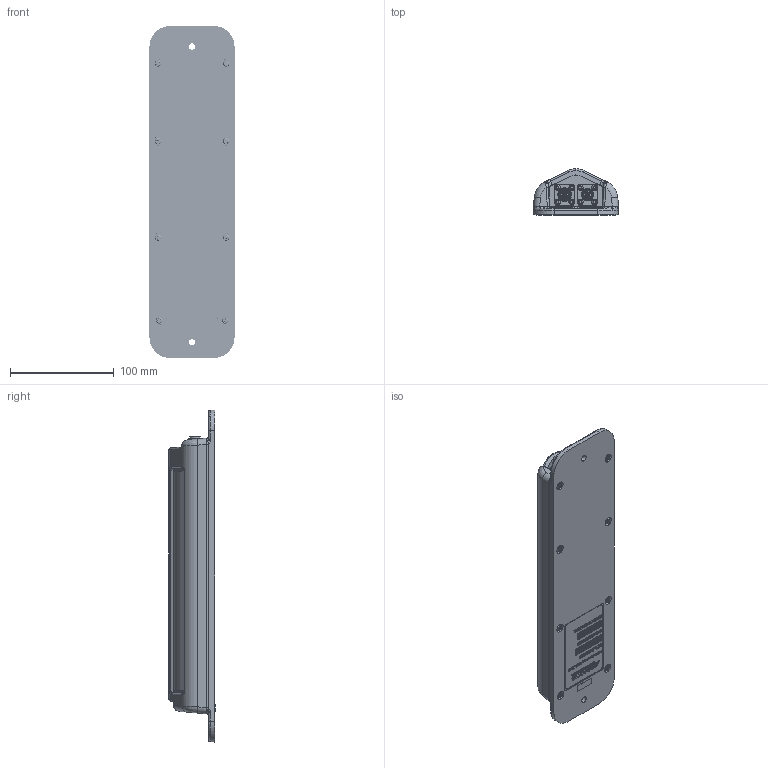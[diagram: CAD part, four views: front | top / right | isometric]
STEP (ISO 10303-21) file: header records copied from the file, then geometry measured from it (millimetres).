
FILE_DESCRIPTION(/* description */ (''),/* implementation_level */ '2;1');
FILE_NAME(/* name */ 'S:\Projects\LASER-RECEIVER-CAN, AX064000, Proj_20027\MECHANICAL\Rev 2.1\STEP FILE\FG-AX064000 STEP_P2.stp',/* time_stamp */ '2023-02-07T13:31:57-05:00',/* author */ ('elondono'),/* organization */ (''),/* preprocessor_version */ 'ST-DEVELOPER v16.13',/* originating_system */ 'Autodesk Inventor 2018',/* authorisation */ '');
FILE_SCHEMA (('AUTOMOTIVE_DESIGN { 1 0 10303 214 3 1 1 }'));
Products named in the file (1): FG-AX064000 STEP_P2
Bounding box: 82 x 44.34 x 320 mm (x, y, z)
Volume: 292376.2 mm3; surface area: 174501.5 mm2
Topology: 4 solids, 5 shells, 3987 faces, 10318 edges, 6731 vertices
Faces by surface type: plane 2309, bspline 918, cylinder 447, cone 247, torus 43, sphere 23
Full cylindrical faces by diameter (mm): 0.77 x5, 0.94 x1, 0.95 x4, 1 x5, 1.05 x5, 1.1 x4, 3 x16, 3.2 x12, 3.327 x8, 3.5 x32, 6.1 x8, 8 x2, 8.3 x1, 10.4 x1, 10.5 x1, 10.8 x1, 10.917 x1, 12 x4, 12.5 x2, 13.5 x1
Entity records: 167136 total; most frequent: CARTESIAN_POINT 75191, ORIENTED_EDGE 19482, DIRECTION 15326, EDGE_CURVE 9741, VERTEX_POINT 6478, LINE 6236, VECTOR 6236, EDGE_LOOP 4565
